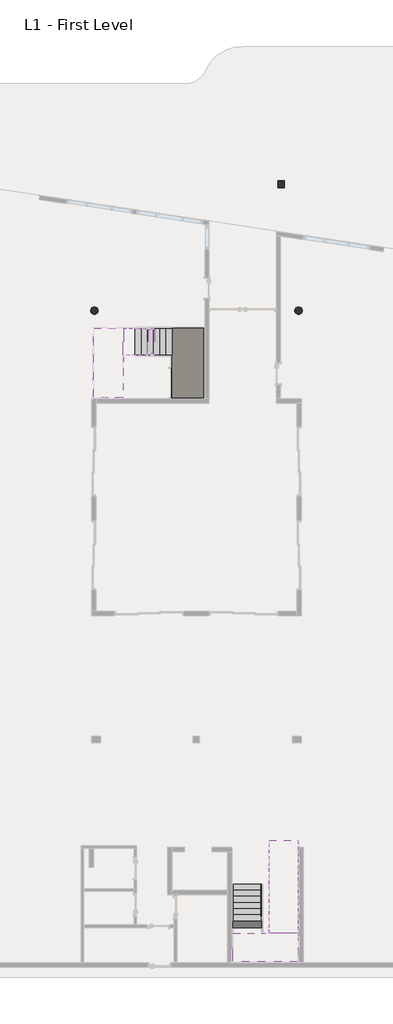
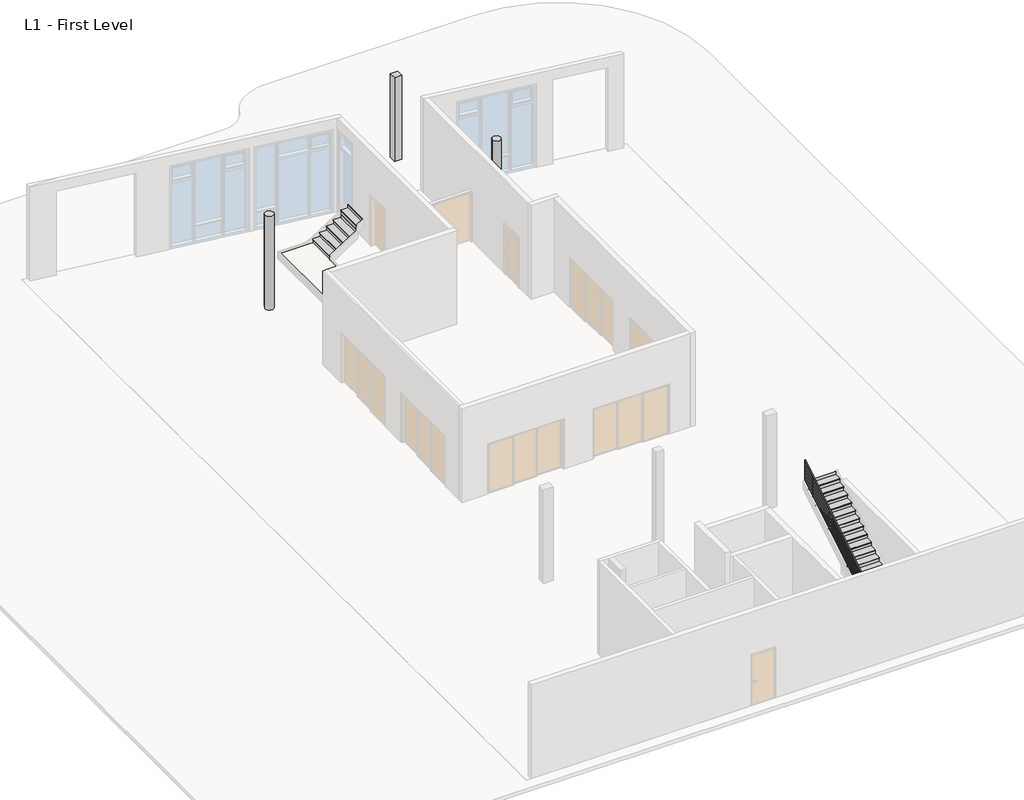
# One storey, part 3 of 4: 6 stair flights, 3 columns, 3 slabs, 1 railing.
"""IFC4 building model written with IfcOpenShell, lengths in millimetres."""

from ifc_helpers import new_model, si_unit, point, frame, frame_2d, origin, place, context, project, spatial, polyline, circle_curve, ellipse_curve, trimmed, segment, composite_curve, outline, extrude, transform, mapped, element, save
from ifc_brep_helpers import plane_surface, cylinder_surface, advanced_brep
from components import non_monolithic_landing_56880b86, non_monolithic_landing_68eda60b, non_monolithic_landing_76c3c681, stair_flight_7fb2988c, stair_flight_2c01031d, stair_flight_8867e0be, stair_flight_4e9d6097, stair_flight_b6dccf16, stair_flight_ce2f7eb1

model = new_model("IFC4")

# Units and contexts
model_context = context("Model", 3, world=origin())
ifc_project = project(units=[si_unit("LENGTHUNIT", "METRE", prefix="MILLI")], contexts=[model_context])

# Site, building, storey
site = spatial("IfcSite", under=ifc_project)
building = spatial("IfcBuilding", under=site)
storey = spatial("IfcBuildingStorey", under=building, Name="L1 - First Level", Elevation=152.4)

# Columns
placement = place(None, origin())
element("IfcColumn", 1, ObjectType="Concrete-Rectangular-Column : 12 x 12", at=placement, inside=storey, context=model_context, shape_type="SweptSolid", body=[
    extrude(outline(polyline([(18491.2, 36220.3999999), (18491.2, 35915.5999999), (18186.4, 35915.5999999), (18186.4, 36220.3999999), (18491.2, 36220.3999999)])), frame((0.0, 0.0, 152.4), z_axis=(0.0, 0.0, 1.0), x_axis=(1.0, 0.0, 0.0)), (0.0, 0.0, 1.0), 3632.2),
])
element("IfcColumn", 2, ObjectType="Concrete-Round-Column : 14\"", at=placement, inside=storey, context=model_context, shape_type="SweptSolid", body=[
    extrude(outline(composite_curve([segment(trimmed(circle_curve(frame_2d((9829.8000173, 30324.5922166)), 177.8), [point((9652.0000173, 30324.5922166))], [point((10007.6000173, 30324.5922166))], False, "CARTESIAN"), True, "CONTINUOUS"), segment(trimmed(circle_curve(frame_2d((9829.8000173, 30324.5922166)), 177.8), [point((10007.6000173, 30324.5922166))], [point((9652.0000173, 30324.5922166))], False, "CARTESIAN"), True, "CONTINUOUS")], self_intersect=False)), frame((0.0, 0.0, 152.4), z_axis=(0.0, 0.0, 1.0), x_axis=(1.0, 0.0, 0.0)), (0.0, 0.0, 1.0), 4064.0),
])
element("IfcColumn", 3, ObjectType="Concrete-Round-Column : 14\"", at=placement, inside=storey, context=model_context, shape_type="SweptSolid", body=[
    extrude(outline(composite_curve([segment(trimmed(circle_curve(frame_2d((19127.0149773, 30324.5922166)), 177.8), [point((18949.2149773, 30324.5922166))], [point((19304.8149773, 30324.5922166))], False, "CARTESIAN"), True, "CONTINUOUS"), segment(trimmed(circle_curve(frame_2d((19127.0149773, 30324.5922166)), 177.8), [point((19304.8149773, 30324.5922166))], [point((18949.2149773, 30324.5922166))], False, "CARTESIAN"), True, "CONTINUOUS")], self_intersect=False)), frame((0.0, 0.0, 152.4), z_axis=(0.0, 0.0, 1.0), x_axis=(1.0, 0.0, 0.0)), (0.0, 0.0, 1.0), 4064.0),
])

# Railing
element("IfcRailing", 4, ObjectType="Handrail - Pipe", at=placement, inside=storey, context=model_context, shape_type="SolidModel", body=[
    advanced_brep(
    [(17405.36205, 4241.8, 1217.1239012), (17443.46205, 4241.8, 1217.1239012), (17405.36205, 1980.3792625, 2615.0930844), (17443.46205, 2012.7869156, 2595.0592625)],
    [
        (0, 1, ellipse_curve(frame((17424.41205, 4241.8, 1217.1239012), z_axis=(0.0, 1.0, 0.0), x_axis=(0.0, 0.0, -1.0)), 22.3960988, 19.05)),
        (1, 0, ellipse_curve(frame((17424.41205, 4241.8, 1217.1239012), z_axis=(0.0, 1.0, 0.0), x_axis=(0.0, 0.0, -1.0)), 22.3960988, 19.05)),
        (2, 3, ellipse_curve(frame((17424.41205, 1996.5830891, 2605.0761735), z_axis=(0.7071067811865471, -0.6014611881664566, 0.37181237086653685), x_axis=(0.7071067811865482, 0.6014611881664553, -0.3718123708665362)), 26.9407684, 19.05)),
        (3, 2, ellipse_curve(frame((17424.41205, 1996.5830891, 2605.0761735), z_axis=(0.7071067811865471, -0.6014611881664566, 0.37181237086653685), x_axis=(0.7071067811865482, 0.6014611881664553, -0.3718123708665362)), 26.9407684, 19.05)),
        (0, 2),
        (3, 1),
    ],
    [
        plane_surface(frame((17424.41205, 4241.8, 1239.52), z_axis=(0.0, 1.0, 0.0), x_axis=(0.0, 0.0, -1.0))),
        plane_surface(frame((17424.41205, 2006.6, 2621.28), z_axis=(0.7071067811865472, -0.6014611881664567, 0.3718123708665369), x_axis=(0.7071067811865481, 0.6014611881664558, -0.3718123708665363))),
        cylinder_surface(frame((17424.41205, 4231.7830891, 1223.3161735), z_axis=(0.0, 0.8505945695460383, -0.525822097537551), x_axis=(1.0, 0.0, 0.0)), 19.05),
    ],
    [
        (0, [[1, 2]]),
        (1, [[3, 4]]),
        (2, [[-1, 5, -4, 6]]),
        (2, [[-2, -6, -3, -5]]),
    ],
),
    advanced_brep(
    [(17418.2251344, 1962.15, 2602.23), (17450.6327875, 2000.25, 2602.23), (17830.804894, 1962.15, 2602.23), (17830.804894, 2000.25, 2602.23)],
    [
        (0, 1, ellipse_curve(frame((17434.428961, 1981.2, 2602.23), z_axis=(-0.7071067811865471, 0.6014611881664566, -0.37181237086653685), x_axis=(-0.7071067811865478, -0.6014611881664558, 0.37181237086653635)), 26.9407684, 19.05)),
        (1, 0, ellipse_curve(frame((17434.428961, 1981.2, 2602.23), z_axis=(-0.7071067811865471, 0.6014611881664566, -0.37181237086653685), x_axis=(-0.7071067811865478, -0.6014611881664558, 0.37181237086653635)), 26.9407684, 19.05)),
        (2, 3, ellipse_curve(frame((17830.804894, 1981.2, 2602.23), z_axis=(0.7071067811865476, 0.0, 0.7071067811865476), x_axis=(-0.7071067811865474, 0.0, 0.7071067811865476)), 26.9407684, 19.05)),
        (3, 2, ellipse_curve(frame((17830.804894, 1981.2, 2602.23), z_axis=(0.7071067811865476, 0.0, 0.7071067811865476), x_axis=(-0.7071067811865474, 0.0, 0.7071067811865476)), 26.9407684, 19.05)),
        (0, 2),
        (3, 1),
    ],
    [
        plane_surface(frame((17424.41205, 1981.2, 2621.28), z_axis=(-0.7071067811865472, 0.6014611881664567, -0.3718123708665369), x_axis=(0.7071067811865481, 0.6014611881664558, -0.3718123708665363))),
        plane_surface(frame((17811.754894, 1981.2, 2621.28), z_axis=(0.7071067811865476, 0.0, 0.7071067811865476), x_axis=(0.7071067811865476, 0.0, -0.7071067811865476))),
        cylinder_surface(frame((17424.41205, 1981.2, 2602.23), z_axis=(-1.0, 0.0, 0.0), x_axis=(0.0, 1.0, 0.0)), 19.05),
    ],
    [
        (0, [[1, 2]]),
        (1, [[3, 4]]),
        (2, [[-1, 5, -4, 6]]),
        (2, [[-2, -6, -3, -5]]),
    ],
),
    advanced_brep(
    [(17830.804894, 1962.15, 2602.23), (17830.804894, 2000.25, 2602.23), (17830.804894, 1962.15, 2766.5218182), (17830.804894, 2000.25, 2745.2823479)],
    [
        (0, 1, ellipse_curve(frame((17830.804894, 1981.2, 2602.23), z_axis=(-0.7071067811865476, 0.0, -0.7071067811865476), x_axis=(0.7071067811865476, 0.0, -0.7071067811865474)), 26.9407684, 19.05)),
        (1, 0, ellipse_curve(frame((17830.804894, 1981.2, 2602.23), z_axis=(-0.7071067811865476, 0.0, -0.7071067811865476), x_axis=(0.7071067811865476, 0.0, -0.7071067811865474)), 26.9407684, 19.05)),
        (2, 3, ellipse_curve(frame((17830.804894, 1981.2, 2755.902083), z_axis=(0.0, 0.486917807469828, 0.8734477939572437), x_axis=(0.0, 0.8734477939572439, -0.4869178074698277)), 21.8101186, 19.05)),
        (3, 2, ellipse_curve(frame((17830.804894, 1981.2, 2755.902083), z_axis=(0.0, 0.486917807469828, 0.8734477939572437), x_axis=(0.0, 0.8734477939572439, -0.4869178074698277)), 21.8101186, 19.05)),
        (0, 2),
        (3, 1),
    ],
    [
        plane_surface(frame((17830.804894, 1981.2, 2602.23), z_axis=(-0.7071067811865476, 0.0, -0.7071067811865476), x_axis=(0.7071067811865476, 0.0, -0.7071067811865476))),
        plane_surface(frame((17830.804894, 1981.2, 2755.902083), z_axis=(0.0, 0.486917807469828, 0.8734477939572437), x_axis=(1.0, 0.0, 0.0))),
        cylinder_surface(frame((17830.804894, 1981.2, 2602.23), z_axis=(0.0, 0.0, -1.0), x_axis=(0.0, 1.0, 0.0)), 19.05),
    ],
    [
        (0, [[1, 2]]),
        (1, [[3, 4]]),
        (2, [[-1, 5, -4, 6]]),
        (2, [[-2, -6, -3, -5]]),
    ],
),
    advanced_brep(
    [(17849.854894, 1981.2, 2755.902083), (17811.754894, 1981.2, 2755.902083), (17849.854894, 6197.6, 5362.4039012), (17811.754894, 6197.6, 5362.4039012)],
    [
        (0, 1, ellipse_curve(frame((17830.804894, 1981.2, 2755.902083), z_axis=(0.0, -0.486917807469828, -0.8734477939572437), x_axis=(0.0, -0.8734477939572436, 0.4869178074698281)), 21.8101186, 19.05)),
        (1, 0, ellipse_curve(frame((17830.804894, 1981.2, 2755.902083), z_axis=(0.0, -0.486917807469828, -0.8734477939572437), x_axis=(0.0, -0.8734477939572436, 0.4869178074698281)), 21.8101186, 19.05)),
        (2, 3, ellipse_curve(frame((17830.804894, 6197.6, 5362.4039012), z_axis=(0.0, 1.0, 0.0), x_axis=(0.0, 0.0, -1.0)), 22.3960988, 19.05)),
        (3, 2, ellipse_curve(frame((17830.804894, 6197.6, 5362.4039012), z_axis=(0.0, 1.0, 0.0), x_axis=(0.0, 0.0, -1.0)), 22.3960988, 19.05)),
        (0, 2),
        (3, 1),
    ],
    [
        plane_surface(frame((17830.804894, 1962.15, 2766.5218182), z_axis=(0.0, -0.486917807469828, -0.8734477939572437), x_axis=(1.0, 0.0, 0.0))),
        plane_surface(frame((17830.804894, 6197.6, 5384.8), z_axis=(0.0, 1.0, 0.0), x_axis=(0.0, 0.0, 1.0))),
        cylinder_surface(frame((17830.804894, 1972.166911, 2750.3179916), z_axis=(0.0, -0.8505945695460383, -0.525822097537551), x_axis=(-1.0, 0.0, 0.0)), 19.05),
    ],
    [
        (0, [[1, 2]]),
        (1, [[3, 4]]),
        (2, [[-1, 5, -4, 6]]),
        (2, [[-2, -6, -3, -5]]),
    ],
),
    advanced_brep(
    [(17411.71205, 4241.8, 1072.1892675), (17437.11205, 4241.8, 1072.1892675), (17411.71205, 2002.9914621, 2456.18), (17437.11205, 2002.9914621, 2456.18), (17411.71205, 1993.9, 2456.18), (17437.11205, 1993.9, 2456.18)],
    [
        (0, 1, ellipse_curve(frame((17424.41205, 4241.8, 1072.1892675), z_axis=(0.0, 1.0, 0.0), x_axis=(0.0, 0.0, -1.0)), 14.9307325, 12.7)),
        (1, 0, ellipse_curve(frame((17424.41205, 4241.8, 1072.1892675), z_axis=(0.0, 1.0, 0.0), x_axis=(0.0, 0.0, -1.0)), 14.9307325, 12.7)),
        (0, 2),
        (2, 3, ellipse_curve(frame((17424.41205, 2002.9914621, 2456.18), z_axis=(0.0, 0.9619237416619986, -0.27331797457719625), x_axis=(0.0, -0.2733179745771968, -0.9619237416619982)), 13.2027098, 12.7)),
        (3, 1),
        (3, 2, ellipse_curve(frame((17424.41205, 2002.9914621, 2456.18), z_axis=(0.0, 0.9619237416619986, -0.27331797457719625), x_axis=(0.0, -0.2733179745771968, -0.9619237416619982)), 13.2027098, 12.7)),
        (4, 5, circle_curve(frame((17424.41205, 1993.9, 2456.18), z_axis=(0.0, -1.0, 0.0), x_axis=(1.0, 0.0, 0.0)), 12.7)),
        (5, 4, circle_curve(frame((17424.41205, 1993.9, 2456.18), z_axis=(0.0, -1.0, 0.0), x_axis=(1.0, 0.0, 0.0)), 12.7)),
        (2, 4),
        (5, 3),
    ],
    [
        plane_surface(frame((17424.41205, 4241.8, 1087.12), z_axis=(0.0, 1.0, 0.0), x_axis=(0.0, 0.0, -1.0))),
        cylinder_surface(frame((17424.41205, 4235.1220594, 1076.317449), z_axis=(0.0, 0.8505945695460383, -0.525822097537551), x_axis=(1.0, 0.0, 0.0)), 12.7),
        plane_surface(frame((17424.41205, 1993.9, 2468.88), z_axis=(0.0, -1.0, 0.0), x_axis=(0.0, 0.0, -1.0))),
        cylinder_surface(frame((17424.41205, 2006.6, 2456.18), z_axis=(0.0, 1.0, 0.0), x_axis=(1.0, 0.0, 0.0)), 12.7),
    ],
    [
        (0, [[1, 2]]),
        (1, [[-1, 3, 4, 5]]),
        (1, [[-2, -5, 6, -3]]),
        (2, [[7, 8]]),
        (3, [[-4, 9, -8, 10]]),
        (3, [[-6, -10, -7, -9]]),
    ],
),
    advanced_brep(
    [(17411.71205, 1968.5, 2456.18), (17411.71205, 1993.9, 2456.18), (17818.104894, 1968.5, 2456.18), (17818.104894, 1993.9, 2456.18)],
    [
        (0, 1, circle_curve(frame((17411.71205, 1981.2, 2456.18), z_axis=(-1.0, 0.0, 0.0), x_axis=(0.0, 1.0, 0.0)), 12.7)),
        (1, 0, circle_curve(frame((17411.71205, 1981.2, 2456.18), z_axis=(-1.0, 0.0, 0.0), x_axis=(0.0, 1.0, 0.0)), 12.7)),
        (2, 3, circle_curve(frame((17818.104894, 1981.2, 2456.18), z_axis=(1.0, 0.0, 0.0), x_axis=(0.0, 1.0, 0.0)), 12.7)),
        (3, 2, circle_curve(frame((17818.104894, 1981.2, 2456.18), z_axis=(1.0, 0.0, 0.0), x_axis=(0.0, 1.0, 0.0)), 12.7)),
        (0, 2),
        (3, 1),
    ],
    [
        plane_surface(frame((17411.71205, 1981.2, 2468.88), z_axis=(-1.0, 0.0, 0.0), x_axis=(0.0, 1.0, 0.0))),
        plane_surface(frame((17818.104894, 1981.2, 2468.88), z_axis=(1.0, 0.0, 0.0), x_axis=(0.0, 1.0, 0.0))),
        cylinder_surface(frame((17411.71205, 1981.2, 2456.18), z_axis=(-1.0, 0.0, 0.0), x_axis=(0.0, 1.0, 0.0)), 12.7),
    ],
    [
        (0, [[1, 2]]),
        (1, [[3, 4]]),
        (2, [[-1, 5, -4, 6]]),
        (2, [[-2, -6, -3, -5]]),
    ],
),
    advanced_brep(
    [(17843.504894, 1968.5, 2603.1165402), (17818.104894, 1968.5, 2603.1165402), (17843.504894, 6197.6, 5217.4692675), (17818.104894, 6197.6, 5217.4692675)],
    [
        (0, 1, ellipse_curve(frame((17830.804894, 1968.5, 2603.1165402), z_axis=(0.0, -1.0, 0.0), x_axis=(0.0, 0.0, -1.0)), 14.9307325, 12.7)),
        (1, 0, ellipse_curve(frame((17830.804894, 1968.5, 2603.1165402), z_axis=(0.0, -1.0, 0.0), x_axis=(0.0, 0.0, -1.0)), 14.9307325, 12.7)),
        (2, 3, ellipse_curve(frame((17830.804894, 6197.6, 5217.4692675), z_axis=(0.0, 1.0, 0.0), x_axis=(0.0, 0.0, -1.0)), 14.9307325, 12.7)),
        (3, 2, ellipse_curve(frame((17830.804894, 6197.6, 5217.4692675), z_axis=(0.0, 1.0, 0.0), x_axis=(0.0, 0.0, -1.0)), 14.9307325, 12.7)),
        (0, 2),
        (3, 1),
    ],
    [
        plane_surface(frame((17830.804894, 1968.5, 2618.0472727), z_axis=(0.0, -1.0, 0.0), x_axis=(0.0, 0.0, 1.0))),
        plane_surface(frame((17830.804894, 6197.6, 5232.4), z_axis=(0.0, 1.0, 0.0), x_axis=(0.0, 0.0, 1.0))),
        cylinder_surface(frame((17830.804894, 1975.1779407, 2607.2447217), z_axis=(0.0, -0.8505945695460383, -0.525822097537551), x_axis=(-1.0, 0.0, 0.0)), 12.7),
    ],
    [
        (0, [[1, 2]]),
        (1, [[3, 4]]),
        (2, [[-1, 5, -4, 6]]),
        (2, [[-2, -6, -3, -5]]),
    ],
),
    advanced_brep(
    [(17411.71205, 4241.8, 919.7892675), (17437.11205, 4241.8, 919.7892675), (17411.71205, 2002.9914621, 2303.78), (17437.11205, 2002.9914621, 2303.78), (17411.71205, 1993.9, 2303.78), (17437.11205, 1993.9, 2303.78)],
    [
        (0, 1, ellipse_curve(frame((17424.41205, 4241.8, 919.7892675), z_axis=(0.0, 1.0, 0.0), x_axis=(0.0, 0.0, -1.0)), 14.9307325, 12.7)),
        (1, 0, ellipse_curve(frame((17424.41205, 4241.8, 919.7892675), z_axis=(0.0, 1.0, 0.0), x_axis=(0.0, 0.0, -1.0)), 14.9307325, 12.7)),
        (0, 2),
        (2, 3, ellipse_curve(frame((17424.41205, 2002.9914621, 2303.78), z_axis=(0.0, 0.9619237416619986, -0.27331797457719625), x_axis=(0.0, -0.2733179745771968, -0.9619237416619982)), 13.2027098, 12.7)),
        (3, 1),
        (3, 2, ellipse_curve(frame((17424.41205, 2002.9914621, 2303.78), z_axis=(0.0, 0.9619237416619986, -0.27331797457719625), x_axis=(0.0, -0.2733179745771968, -0.9619237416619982)), 13.2027098, 12.7)),
        (4, 5, circle_curve(frame((17424.41205, 1993.9, 2303.78), z_axis=(0.0, -1.0, 0.0), x_axis=(1.0, 0.0, 0.0)), 12.7)),
        (5, 4, circle_curve(frame((17424.41205, 1993.9, 2303.78), z_axis=(0.0, -1.0, 0.0), x_axis=(1.0, 0.0, 0.0)), 12.7)),
        (2, 4),
        (5, 3),
    ],
    [
        plane_surface(frame((17424.41205, 4241.8, 934.72), z_axis=(0.0, 1.0, 0.0), x_axis=(0.0, 0.0, -1.0))),
        cylinder_surface(frame((17424.41205, 4235.1220594, 923.917449), z_axis=(0.0, 0.8505945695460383, -0.525822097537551), x_axis=(1.0, 0.0, 0.0)), 12.7),
        plane_surface(frame((17424.41205, 1993.9, 2316.48), z_axis=(0.0, -1.0, 0.0), x_axis=(0.0, 0.0, -1.0))),
        cylinder_surface(frame((17424.41205, 2006.6, 2303.78), z_axis=(0.0, 1.0, 0.0), x_axis=(1.0, 0.0, 0.0)), 12.7),
    ],
    [
        (0, [[1, 2]]),
        (1, [[-1, 3, 4, 5]]),
        (1, [[-2, -5, 6, -3]]),
        (2, [[7, 8]]),
        (3, [[-4, 9, -8, 10]]),
        (3, [[-6, -10, -7, -9]]),
    ],
),
    advanced_brep(
    [(17411.71205, 1968.5, 2303.78), (17411.71205, 1993.9, 2303.78), (17818.104894, 1968.5, 2303.78), (17818.104894, 1993.9, 2303.78)],
    [
        (0, 1, circle_curve(frame((17411.71205, 1981.2, 2303.78), z_axis=(-1.0, 0.0, 0.0), x_axis=(0.0, 1.0, 0.0)), 12.7)),
        (1, 0, circle_curve(frame((17411.71205, 1981.2, 2303.78), z_axis=(-1.0, 0.0, 0.0), x_axis=(0.0, 1.0, 0.0)), 12.7)),
        (2, 3, circle_curve(frame((17818.104894, 1981.2, 2303.78), z_axis=(1.0, 0.0, 0.0), x_axis=(0.0, 1.0, 0.0)), 12.7)),
        (3, 2, circle_curve(frame((17818.104894, 1981.2, 2303.78), z_axis=(1.0, 0.0, 0.0), x_axis=(0.0, 1.0, 0.0)), 12.7)),
        (0, 2),
        (3, 1),
    ],
    [
        plane_surface(frame((17411.71205, 1981.2, 2316.48), z_axis=(-1.0, 0.0, 0.0), x_axis=(0.0, 1.0, 0.0))),
        plane_surface(frame((17818.104894, 1981.2, 2316.48), z_axis=(1.0, 0.0, 0.0), x_axis=(0.0, 1.0, 0.0))),
        cylinder_surface(frame((17411.71205, 1981.2, 2303.78), z_axis=(-1.0, 0.0, 0.0), x_axis=(0.0, 1.0, 0.0)), 12.7),
    ],
    [
        (0, [[1, 2]]),
        (1, [[3, 4]]),
        (2, [[-1, 5, -4, 6]]),
        (2, [[-2, -6, -3, -5]]),
    ],
),
    advanced_brep(
    [(17843.504894, 1968.5, 2450.7165402), (17818.104894, 1968.5, 2450.7165402), (17843.504894, 6197.6, 5065.0692675), (17818.104894, 6197.6, 5065.0692675)],
    [
        (0, 1, ellipse_curve(frame((17830.804894, 1968.5, 2450.7165402), z_axis=(0.0, -1.0, 0.0), x_axis=(0.0, 0.0, -1.0)), 14.9307325, 12.7)),
        (1, 0, ellipse_curve(frame((17830.804894, 1968.5, 2450.7165402), z_axis=(0.0, -1.0, 0.0), x_axis=(0.0, 0.0, -1.0)), 14.9307325, 12.7)),
        (2, 3, ellipse_curve(frame((17830.804894, 6197.6, 5065.0692675), z_axis=(0.0, 1.0, 0.0), x_axis=(0.0, 0.0, -1.0)), 14.9307325, 12.7)),
        (3, 2, ellipse_curve(frame((17830.804894, 6197.6, 5065.0692675), z_axis=(0.0, 1.0, 0.0), x_axis=(0.0, 0.0, -1.0)), 14.9307325, 12.7)),
        (0, 2),
        (3, 1),
    ],
    [
        plane_surface(frame((17830.804894, 1968.5, 2465.6472727), z_axis=(0.0, -1.0, 0.0), x_axis=(0.0, 0.0, 1.0))),
        plane_surface(frame((17830.804894, 6197.6, 5080.0), z_axis=(0.0, 1.0, 0.0), x_axis=(0.0, 0.0, 1.0))),
        cylinder_surface(frame((17830.804894, 1975.1779407, 2454.8447217), z_axis=(0.0, -0.8505945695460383, -0.525822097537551), x_axis=(-1.0, 0.0, 0.0)), 12.7),
    ],
    [
        (0, [[1, 2]]),
        (1, [[3, 4]]),
        (2, [[-1, 5, -4, 6]]),
        (2, [[-2, -6, -3, -5]]),
    ],
),
    advanced_brep(
    [(17411.71205, 4241.8, 767.3892675), (17437.11205, 4241.8, 767.3892675), (17411.71205, 2002.9914621, 2151.38), (17437.11205, 2002.9914621, 2151.38), (17411.71205, 1993.9, 2151.38), (17437.11205, 1993.9, 2151.38)],
    [
        (0, 1, ellipse_curve(frame((17424.41205, 4241.8, 767.3892675), z_axis=(0.0, 1.0, 0.0), x_axis=(0.0, 0.0, -1.0)), 14.9307325, 12.7)),
        (1, 0, ellipse_curve(frame((17424.41205, 4241.8, 767.3892675), z_axis=(0.0, 1.0, 0.0), x_axis=(0.0, 0.0, -1.0)), 14.9307325, 12.7)),
        (0, 2),
        (2, 3, ellipse_curve(frame((17424.41205, 2002.9914621, 2151.38), z_axis=(0.0, 0.9619237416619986, -0.27331797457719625), x_axis=(0.0, -0.2733179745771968, -0.9619237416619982)), 13.2027098, 12.7)),
        (3, 1),
        (3, 2, ellipse_curve(frame((17424.41205, 2002.9914621, 2151.38), z_axis=(0.0, 0.9619237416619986, -0.27331797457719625), x_axis=(0.0, -0.2733179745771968, -0.9619237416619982)), 13.2027098, 12.7)),
        (4, 5, circle_curve(frame((17424.41205, 1993.9, 2151.38), z_axis=(0.0, -1.0, 0.0), x_axis=(1.0, 0.0, 0.0)), 12.7)),
        (5, 4, circle_curve(frame((17424.41205, 1993.9, 2151.38), z_axis=(0.0, -1.0, 0.0), x_axis=(1.0, 0.0, 0.0)), 12.7)),
        (2, 4),
        (5, 3),
    ],
    [
        plane_surface(frame((17424.41205, 4241.8, 782.32), z_axis=(0.0, 1.0, 0.0), x_axis=(0.0, 0.0, -1.0))),
        cylinder_surface(frame((17424.41205, 4235.1220594, 771.517449), z_axis=(0.0, 0.8505945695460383, -0.525822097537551), x_axis=(1.0, 0.0, 0.0)), 12.7),
        plane_surface(frame((17424.41205, 1993.9, 2164.08), z_axis=(0.0, -1.0, 0.0), x_axis=(0.0, 0.0, -1.0))),
        cylinder_surface(frame((17424.41205, 2006.6, 2151.38), z_axis=(0.0, 1.0, 0.0), x_axis=(1.0, 0.0, 0.0)), 12.7),
    ],
    [
        (0, [[1, 2]]),
        (1, [[-1, 3, 4, 5]]),
        (1, [[-2, -5, 6, -3]]),
        (2, [[7, 8]]),
        (3, [[-4, 9, -8, 10]]),
        (3, [[-6, -10, -7, -9]]),
    ],
),
    advanced_brep(
    [(17411.71205, 1968.5, 2151.38), (17411.71205, 1993.9, 2151.38), (17818.104894, 1968.5, 2151.38), (17818.104894, 1993.9, 2151.38)],
    [
        (0, 1, circle_curve(frame((17411.71205, 1981.2, 2151.38), z_axis=(-1.0, 0.0, 0.0), x_axis=(0.0, 1.0, 0.0)), 12.7)),
        (1, 0, circle_curve(frame((17411.71205, 1981.2, 2151.38), z_axis=(-1.0, 0.0, 0.0), x_axis=(0.0, 1.0, 0.0)), 12.7)),
        (2, 3, circle_curve(frame((17818.104894, 1981.2, 2151.38), z_axis=(1.0, 0.0, 0.0), x_axis=(0.0, 1.0, 0.0)), 12.7)),
        (3, 2, circle_curve(frame((17818.104894, 1981.2, 2151.38), z_axis=(1.0, 0.0, 0.0), x_axis=(0.0, 1.0, 0.0)), 12.7)),
        (0, 2),
        (3, 1),
    ],
    [
        plane_surface(frame((17411.71205, 1981.2, 2164.08), z_axis=(-1.0, 0.0, 0.0), x_axis=(0.0, 1.0, 0.0))),
        plane_surface(frame((17818.104894, 1981.2, 2164.08), z_axis=(1.0, 0.0, 0.0), x_axis=(0.0, 1.0, 0.0))),
        cylinder_surface(frame((17411.71205, 1981.2, 2151.38), z_axis=(-1.0, 0.0, 0.0), x_axis=(0.0, 1.0, 0.0)), 12.7),
    ],
    [
        (0, [[1, 2]]),
        (1, [[3, 4]]),
        (2, [[-1, 5, -4, 6]]),
        (2, [[-2, -6, -3, -5]]),
    ],
),
    advanced_brep(
    [(17843.504894, 1968.5, 2298.3165402), (17818.104894, 1968.5, 2298.3165402), (17843.504894, 6197.6, 4912.6692675), (17818.104894, 6197.6, 4912.6692675)],
    [
        (0, 1, ellipse_curve(frame((17830.804894, 1968.5, 2298.3165402), z_axis=(0.0, -1.0, 0.0), x_axis=(0.0, 0.0, -1.0)), 14.9307325, 12.7)),
        (1, 0, ellipse_curve(frame((17830.804894, 1968.5, 2298.3165402), z_axis=(0.0, -1.0, 0.0), x_axis=(0.0, 0.0, -1.0)), 14.9307325, 12.7)),
        (2, 3, ellipse_curve(frame((17830.804894, 6197.6, 4912.6692675), z_axis=(0.0, 1.0, 0.0), x_axis=(0.0, 0.0, -1.0)), 14.9307325, 12.7)),
        (3, 2, ellipse_curve(frame((17830.804894, 6197.6, 4912.6692675), z_axis=(0.0, 1.0, 0.0), x_axis=(0.0, 0.0, -1.0)), 14.9307325, 12.7)),
        (0, 2),
        (3, 1),
    ],
    [
        plane_surface(frame((17830.804894, 1968.5, 2313.2472727), z_axis=(0.0, -1.0, 0.0), x_axis=(0.0, 0.0, 1.0))),
        plane_surface(frame((17830.804894, 6197.6, 4927.6), z_axis=(0.0, 1.0, 0.0), x_axis=(0.0, 0.0, 1.0))),
        cylinder_surface(frame((17830.804894, 1975.1779407, 2302.4447217), z_axis=(0.0, -0.8505945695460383, -0.525822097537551), x_axis=(-1.0, 0.0, 0.0)), 12.7),
    ],
    [
        (0, [[1, 2]]),
        (1, [[3, 4]]),
        (2, [[-1, 5, -4, 6]]),
        (2, [[-2, -6, -3, -5]]),
    ],
),
    advanced_brep(
    [(17411.71205, 4241.8, 614.9892675), (17437.11205, 4241.8, 614.9892675), (17411.71205, 2002.9914621, 1998.98), (17437.11205, 2002.9914621, 1998.98), (17411.71205, 1993.9, 1998.98), (17437.11205, 1993.9, 1998.98)],
    [
        (0, 1, ellipse_curve(frame((17424.41205, 4241.8, 614.9892675), z_axis=(0.0, 1.0, 0.0), x_axis=(0.0, 0.0, -1.0)), 14.9307325, 12.7)),
        (1, 0, ellipse_curve(frame((17424.41205, 4241.8, 614.9892675), z_axis=(0.0, 1.0, 0.0), x_axis=(0.0, 0.0, -1.0)), 14.9307325, 12.7)),
        (0, 2),
        (2, 3, ellipse_curve(frame((17424.41205, 2002.9914621, 1998.98), z_axis=(0.0, 0.9619237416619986, -0.27331797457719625), x_axis=(0.0, -0.2733179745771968, -0.9619237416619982)), 13.2027098, 12.7)),
        (3, 1),
        (3, 2, ellipse_curve(frame((17424.41205, 2002.9914621, 1998.98), z_axis=(0.0, 0.9619237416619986, -0.27331797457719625), x_axis=(0.0, -0.2733179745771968, -0.9619237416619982)), 13.2027098, 12.7)),
        (4, 5, circle_curve(frame((17424.41205, 1993.9, 1998.98), z_axis=(0.0, -1.0, 0.0), x_axis=(1.0, 0.0, 0.0)), 12.7)),
        (5, 4, circle_curve(frame((17424.41205, 1993.9, 1998.98), z_axis=(0.0, -1.0, 0.0), x_axis=(1.0, 0.0, 0.0)), 12.7)),
        (2, 4),
        (5, 3),
    ],
    [
        plane_surface(frame((17424.41205, 4241.8, 629.92), z_axis=(0.0, 1.0, 0.0), x_axis=(0.0, 0.0, -1.0))),
        cylinder_surface(frame((17424.41205, 4235.1220594, 619.117449), z_axis=(0.0, 0.8505945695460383, -0.525822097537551), x_axis=(1.0, 0.0, 0.0)), 12.7),
        plane_surface(frame((17424.41205, 1993.9, 2011.68), z_axis=(0.0, -1.0, 0.0), x_axis=(0.0, 0.0, -1.0))),
        cylinder_surface(frame((17424.41205, 2006.6, 1998.98), z_axis=(0.0, 1.0, 0.0), x_axis=(1.0, 0.0, 0.0)), 12.7),
    ],
    [
        (0, [[1, 2]]),
        (1, [[-1, 3, 4, 5]]),
        (1, [[-2, -5, 6, -3]]),
        (2, [[7, 8]]),
        (3, [[-4, 9, -8, 10]]),
        (3, [[-6, -10, -7, -9]]),
    ],
),
    advanced_brep(
    [(17411.71205, 1968.5, 1998.98), (17411.71205, 1993.9, 1998.98), (17818.104894, 1968.5, 1998.98), (17818.104894, 1993.9, 1998.98)],
    [
        (0, 1, circle_curve(frame((17411.71205, 1981.2, 1998.98), z_axis=(-1.0, 0.0, 0.0), x_axis=(0.0, 1.0, 0.0)), 12.7)),
        (1, 0, circle_curve(frame((17411.71205, 1981.2, 1998.98), z_axis=(-1.0, 0.0, 0.0), x_axis=(0.0, 1.0, 0.0)), 12.7)),
        (2, 3, circle_curve(frame((17818.104894, 1981.2, 1998.98), z_axis=(1.0, 0.0, 0.0), x_axis=(0.0, 1.0, 0.0)), 12.7)),
        (3, 2, circle_curve(frame((17818.104894, 1981.2, 1998.98), z_axis=(1.0, 0.0, 0.0), x_axis=(0.0, 1.0, 0.0)), 12.7)),
        (0, 2),
        (3, 1),
    ],
    [
        plane_surface(frame((17411.71205, 1981.2, 2011.68), z_axis=(-1.0, 0.0, 0.0), x_axis=(0.0, 1.0, 0.0))),
        plane_surface(frame((17818.104894, 1981.2, 2011.68), z_axis=(1.0, 0.0, 0.0), x_axis=(0.0, 1.0, 0.0))),
        cylinder_surface(frame((17411.71205, 1981.2, 1998.98), z_axis=(-1.0, 0.0, 0.0), x_axis=(0.0, 1.0, 0.0)), 12.7),
    ],
    [
        (0, [[1, 2]]),
        (1, [[3, 4]]),
        (2, [[-1, 5, -4, 6]]),
        (2, [[-2, -6, -3, -5]]),
    ],
),
    advanced_brep(
    [(17843.504894, 1968.5, 2145.9165402), (17818.104894, 1968.5, 2145.9165402), (17843.504894, 6197.6, 4760.2692675), (17818.104894, 6197.6, 4760.2692675)],
    [
        (0, 1, ellipse_curve(frame((17830.804894, 1968.5, 2145.9165402), z_axis=(0.0, -1.0, 0.0), x_axis=(0.0, 0.0, -1.0)), 14.9307325, 12.7)),
        (1, 0, ellipse_curve(frame((17830.804894, 1968.5, 2145.9165402), z_axis=(0.0, -1.0, 0.0), x_axis=(0.0, 0.0, -1.0)), 14.9307325, 12.7)),
        (2, 3, ellipse_curve(frame((17830.804894, 6197.6, 4760.2692675), z_axis=(0.0, 1.0, 0.0), x_axis=(0.0, 0.0, -1.0)), 14.9307325, 12.7)),
        (3, 2, ellipse_curve(frame((17830.804894, 6197.6, 4760.2692675), z_axis=(0.0, 1.0, 0.0), x_axis=(0.0, 0.0, -1.0)), 14.9307325, 12.7)),
        (0, 2),
        (3, 1),
    ],
    [
        plane_surface(frame((17830.804894, 1968.5, 2160.8472727), z_axis=(0.0, -1.0, 0.0), x_axis=(0.0, 0.0, 1.0))),
        plane_surface(frame((17830.804894, 6197.6, 4775.2), z_axis=(0.0, 1.0, 0.0), x_axis=(0.0, 0.0, 1.0))),
        cylinder_surface(frame((17830.804894, 1975.1779407, 2150.0447217), z_axis=(0.0, -0.8505945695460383, -0.525822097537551), x_axis=(-1.0, 0.0, 0.0)), 12.7),
    ],
    [
        (0, [[1, 2]]),
        (1, [[3, 4]]),
        (2, [[-1, 5, -4, 6]]),
        (2, [[-2, -6, -3, -5]]),
    ],
),
    advanced_brep(
    [(17411.71205, 4241.8, 462.5892675), (17437.11205, 4241.8, 462.5892675), (17411.71205, 2002.9914621, 1846.58), (17437.11205, 2002.9914621, 1846.58), (17411.71205, 1993.9, 1846.58), (17437.11205, 1993.9, 1846.58)],
    [
        (0, 1, ellipse_curve(frame((17424.41205, 4241.8, 462.5892675), z_axis=(0.0, 1.0, 0.0), x_axis=(0.0, 0.0, -1.0)), 14.9307325, 12.7)),
        (1, 0, ellipse_curve(frame((17424.41205, 4241.8, 462.5892675), z_axis=(0.0, 1.0, 0.0), x_axis=(0.0, 0.0, -1.0)), 14.9307325, 12.7)),
        (0, 2),
        (2, 3, ellipse_curve(frame((17424.41205, 2002.9914621, 1846.58), z_axis=(0.0, 0.9619237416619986, -0.27331797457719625), x_axis=(0.0, -0.2733179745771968, -0.9619237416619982)), 13.2027098, 12.7)),
        (3, 1),
        (3, 2, ellipse_curve(frame((17424.41205, 2002.9914621, 1846.58), z_axis=(0.0, 0.9619237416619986, -0.27331797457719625), x_axis=(0.0, -0.2733179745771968, -0.9619237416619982)), 13.2027098, 12.7)),
        (4, 5, circle_curve(frame((17424.41205, 1993.9, 1846.58), z_axis=(0.0, -1.0, 0.0), x_axis=(1.0, 0.0, 0.0)), 12.7)),
        (5, 4, circle_curve(frame((17424.41205, 1993.9, 1846.58), z_axis=(0.0, -1.0, 0.0), x_axis=(1.0, 0.0, 0.0)), 12.7)),
        (2, 4),
        (5, 3),
    ],
    [
        plane_surface(frame((17424.41205, 4241.8, 477.52), z_axis=(0.0, 1.0, 0.0), x_axis=(0.0, 0.0, -1.0))),
        cylinder_surface(frame((17424.41205, 4235.1220594, 466.717449), z_axis=(0.0, 0.8505945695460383, -0.525822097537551), x_axis=(1.0, 0.0, 0.0)), 12.7),
        plane_surface(frame((17424.41205, 1993.9, 1859.28), z_axis=(0.0, -1.0, 0.0), x_axis=(0.0, 0.0, -1.0))),
        cylinder_surface(frame((17424.41205, 2006.6, 1846.58), z_axis=(0.0, 1.0, 0.0), x_axis=(1.0, 0.0, 0.0)), 12.7),
    ],
    [
        (0, [[1, 2]]),
        (1, [[-1, 3, 4, 5]]),
        (1, [[-2, -5, 6, -3]]),
        (2, [[7, 8]]),
        (3, [[-4, 9, -8, 10]]),
        (3, [[-6, -10, -7, -9]]),
    ],
),
    advanced_brep(
    [(17411.71205, 1968.5, 1846.58), (17411.71205, 1993.9, 1846.58), (17818.104894, 1968.5, 1846.58), (17818.104894, 1993.9, 1846.58)],
    [
        (0, 1, circle_curve(frame((17411.71205, 1981.2, 1846.58), z_axis=(-1.0, 0.0, 0.0), x_axis=(0.0, 1.0, 0.0)), 12.7)),
        (1, 0, circle_curve(frame((17411.71205, 1981.2, 1846.58), z_axis=(-1.0, 0.0, 0.0), x_axis=(0.0, 1.0, 0.0)), 12.7)),
        (2, 3, circle_curve(frame((17818.104894, 1981.2, 1846.58), z_axis=(1.0, 0.0, 0.0), x_axis=(0.0, 1.0, 0.0)), 12.7)),
        (3, 2, circle_curve(frame((17818.104894, 1981.2, 1846.58), z_axis=(1.0, 0.0, 0.0), x_axis=(0.0, 1.0, 0.0)), 12.7)),
        (0, 2),
        (3, 1),
    ],
    [
        plane_surface(frame((17411.71205, 1981.2, 1859.28), z_axis=(-1.0, 0.0, 0.0), x_axis=(0.0, 1.0, 0.0))),
        plane_surface(frame((17818.104894, 1981.2, 1859.28), z_axis=(1.0, 0.0, 0.0), x_axis=(0.0, 1.0, 0.0))),
        cylinder_surface(frame((17411.71205, 1981.2, 1846.58), z_axis=(-1.0, 0.0, 0.0), x_axis=(0.0, 1.0, 0.0)), 12.7),
    ],
    [
        (0, [[1, 2]]),
        (1, [[3, 4]]),
        (2, [[-1, 5, -4, 6]]),
        (2, [[-2, -6, -3, -5]]),
    ],
),
    advanced_brep(
    [(17843.504894, 1968.5, 1993.5165402), (17818.104894, 1968.5, 1993.5165402), (17843.504894, 6197.6, 4607.8692675), (17818.104894, 6197.6, 4607.8692675)],
    [
        (0, 1, ellipse_curve(frame((17830.804894, 1968.5, 1993.5165402), z_axis=(0.0, -1.0, 0.0), x_axis=(0.0, 0.0, -1.0)), 14.9307325, 12.7)),
        (1, 0, ellipse_curve(frame((17830.804894, 1968.5, 1993.5165402), z_axis=(0.0, -1.0, 0.0), x_axis=(0.0, 0.0, -1.0)), 14.9307325, 12.7)),
        (2, 3, ellipse_curve(frame((17830.804894, 6197.6, 4607.8692675), z_axis=(0.0, 1.0, 0.0), x_axis=(0.0, 0.0, -1.0)), 14.9307325, 12.7)),
        (3, 2, ellipse_curve(frame((17830.804894, 6197.6, 4607.8692675), z_axis=(0.0, 1.0, 0.0), x_axis=(0.0, 0.0, -1.0)), 14.9307325, 12.7)),
        (0, 2),
        (3, 1),
    ],
    [
        plane_surface(frame((17830.804894, 1968.5, 2008.4472727), z_axis=(0.0, -1.0, 0.0), x_axis=(0.0, 0.0, 1.0))),
        plane_surface(frame((17830.804894, 6197.6, 4622.8), z_axis=(0.0, 1.0, 0.0), x_axis=(0.0, 0.0, 1.0))),
        cylinder_surface(frame((17830.804894, 1975.1779407, 1997.6447217), z_axis=(0.0, -0.8505945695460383, -0.525822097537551), x_axis=(-1.0, 0.0, 0.0)), 12.7),
    ],
    [
        (0, [[1, 2]]),
        (1, [[3, 4]]),
        (2, [[-1, 5, -4, 6]]),
        (2, [[-2, -6, -3, -5]]),
    ],
),
    advanced_brep(
    [(17818.104894, 5638.8, 4994.5678024), (17843.504894, 5638.8, 4994.5678024), (17843.504894, 5638.8, 4124.96), (17818.104894, 5638.8, 4124.96)],
    [
        (0, 1, ellipse_curve(frame((17830.804894, 5638.8, 4994.5678024), z_axis=(0.0, 0.5258220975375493, -0.8505945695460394), x_axis=(0.0, 0.8505945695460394, 0.5258220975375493)), 14.9307325, 12.7)),
        (1, 2),
        (2, 3, circle_curve(frame((17830.804894, 5638.8, 4124.96), z_axis=(0.0, 0.0, 1.0), x_axis=(1.0, 0.0, 0.0)), 12.7)),
        (3, 0),
        (3, 2, circle_curve(frame((17830.804894, 5638.8, 4124.96), z_axis=(0.0, 0.0, 1.0), x_axis=(1.0, 0.0, 0.0)), 12.7)),
        (1, 0, ellipse_curve(frame((17830.804894, 5638.8, 4994.5678024), z_axis=(0.0, 0.5258220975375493, -0.8505945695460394), x_axis=(0.0, 0.8505945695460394, 0.5258220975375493)), 14.9307325, 12.7)),
    ],
    [
        cylinder_surface(frame((17830.804894, 5638.8, 3896.36), z_axis=(0.0, 0.0, 1.0), x_axis=(1.0, 0.0, 0.0)), 12.7),
        plane_surface(frame((17856.204894, 5664.2, 5010.2696206), z_axis=(0.0, -0.5258220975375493, 0.8505945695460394), x_axis=(-1.0, 0.0, 0.0))),
        plane_surface(frame((17856.204894, 5613.4, 4124.96), z_axis=(0.0, 0.0, -1.0), x_axis=(-1.0, 0.0, 0.0))),
    ],
    [
        (0, [[1, 2, 3, 4]]),
        (0, [[5, -2, 6, -4]]),
        (1, [[-6, -1]]),
        (2, [[-5, -3]]),
    ],
),
    advanced_brep(
    [(17818.104894, 4419.6, 4240.8805297), (17843.504894, 4419.6, 4240.8805297), (17843.504894, 4419.6, 3261.36), (17818.104894, 4419.6, 3261.36)],
    [
        (0, 1, ellipse_curve(frame((17830.804894, 4419.6, 4240.8805297), z_axis=(0.0, 0.5258220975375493, -0.8505945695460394), x_axis=(0.0, 0.8505945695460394, 0.5258220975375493)), 14.9307325, 12.7)),
        (1, 2),
        (2, 3, circle_curve(frame((17830.804894, 4419.6, 3261.36), z_axis=(0.0, 0.0, 1.0), x_axis=(1.0, 0.0, 0.0)), 12.7)),
        (3, 0),
        (3, 2, circle_curve(frame((17830.804894, 4419.6, 3261.36), z_axis=(0.0, 0.0, 1.0), x_axis=(1.0, 0.0, 0.0)), 12.7)),
        (1, 0, ellipse_curve(frame((17830.804894, 4419.6, 4240.8805297), z_axis=(0.0, 0.5258220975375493, -0.8505945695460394), x_axis=(0.0, 0.8505945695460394, 0.5258220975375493)), 14.9307325, 12.7)),
    ],
    [
        cylinder_surface(frame((17830.804894, 4419.6, 3032.76), z_axis=(0.0, 0.0, 1.0), x_axis=(1.0, 0.0, 0.0)), 12.7),
        plane_surface(frame((17856.204894, 4445.0, 4256.5823479), z_axis=(0.0, -0.5258220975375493, 0.8505945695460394), x_axis=(-1.0, 0.0, 0.0))),
        plane_surface(frame((17856.204894, 4394.2, 3261.36), z_axis=(0.0, 0.0, -1.0), x_axis=(-1.0, 0.0, 0.0))),
    ],
    [
        (0, [[1, 2, 3, 4]]),
        (0, [[5, -2, 6, -4]]),
        (1, [[-6, -1]]),
        (2, [[-5, -3]]),
    ],
),
    advanced_brep(
    [(17818.104894, 3200.4, 3487.193257), (17843.504894, 3200.4, 3487.193257), (17843.504894, 3200.4, 2570.48), (17818.104894, 3200.4, 2570.48)],
    [
        (0, 1, ellipse_curve(frame((17830.804894, 3200.4, 3487.193257), z_axis=(0.0, 0.5258220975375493, -0.8505945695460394), x_axis=(0.0, 0.8505945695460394, 0.5258220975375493)), 14.9307325, 12.7)),
        (1, 2),
        (2, 3, circle_curve(frame((17830.804894, 3200.4, 2570.48), z_axis=(0.0, 0.0, 1.0), x_axis=(1.0, 0.0, 0.0)), 12.7)),
        (3, 0),
        (3, 2, circle_curve(frame((17830.804894, 3200.4, 2570.48), z_axis=(0.0, 0.0, 1.0), x_axis=(1.0, 0.0, 0.0)), 12.7)),
        (1, 0, ellipse_curve(frame((17830.804894, 3200.4, 3487.193257), z_axis=(0.0, 0.5258220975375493, -0.8505945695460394), x_axis=(0.0, 0.8505945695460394, 0.5258220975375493)), 14.9307325, 12.7)),
    ],
    [
        cylinder_surface(frame((17830.804894, 3200.4, 2341.88), z_axis=(0.0, 0.0, 1.0), x_axis=(1.0, 0.0, 0.0)), 12.7),
        plane_surface(frame((17856.204894, 3225.8, 3502.8950752), z_axis=(0.0, -0.5258220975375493, 0.8505945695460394), x_axis=(-1.0, 0.0, 0.0))),
        plane_surface(frame((17856.204894, 3175.0, 2570.48), z_axis=(0.0, 0.0, -1.0), x_axis=(-1.0, 0.0, 0.0))),
    ],
    [
        (0, [[1, 2, 3, 4]]),
        (0, [[5, -2, 6, -4]]),
        (1, [[-6, -1]]),
        (2, [[-5, -3]]),
    ],
),
    advanced_brep(
    [(17437.11205, 3022.6, 1948.4150752), (17411.71205, 3022.6, 1948.4150752), (17411.71205, 3022.6, 1016.0), (17437.11205, 3022.6, 1016.0)],
    [
        (0, 1, ellipse_curve(frame((17424.41205, 3022.6, 1948.4150752), z_axis=(0.0, -0.5258220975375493, -0.8505945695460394), x_axis=(0.0, -0.8505945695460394, 0.5258220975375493)), 14.9307325, 12.7)),
        (1, 2),
        (2, 3, circle_curve(frame((17424.41205, 3022.6, 1016.0), z_axis=(0.0, 0.0, 1.0), x_axis=(-1.0, 0.0, 0.0)), 12.7)),
        (3, 0),
        (3, 2, circle_curve(frame((17424.41205, 3022.6, 1016.0), z_axis=(0.0, 0.0, 1.0), x_axis=(-1.0, 0.0, 0.0)), 12.7)),
        (1, 0, ellipse_curve(frame((17424.41205, 3022.6, 1948.4150752), z_axis=(0.0, -0.5258220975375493, -0.8505945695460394), x_axis=(0.0, -0.8505945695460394, 0.5258220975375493)), 14.9307325, 12.7)),
    ],
    [
        cylinder_surface(frame((17424.41205, 3022.6, 787.4), z_axis=(0.0, 0.0, 1.0), x_axis=(-1.0, 0.0, 0.0)), 12.7),
        plane_surface(frame((17399.01205, 2997.2, 1964.1168934), z_axis=(0.0, 0.5258220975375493, 0.8505945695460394), x_axis=(1.0, 0.0, 0.0))),
        plane_surface(frame((17399.01205, 3048.0, 1016.0), z_axis=(0.0, 0.0, -1.0), x_axis=(1.0, 0.0, 0.0))),
    ],
    [
        (0, [[1, 2, 3, 4]]),
        (0, [[5, -2, 6, -4]]),
        (1, [[-6, -1]]),
        (2, [[-5, -3]]),
    ],
),
    extrude(outline(composite_curve([segment(trimmed(circle_curve(frame_2d((17830.804894, 1981.2)), 12.7), [point((17830.804894, 1968.5))], [point((17830.804894, 1993.9))], False, "CARTESIAN"), True, "CONTINUOUS"), segment(trimmed(circle_curve(frame_2d((17830.804894, 1981.2)), 12.7), [point((17830.804894, 1993.9))], [point((17830.804894, 1968.5))], False, "CARTESIAN"), True, "CONTINUOUS")], self_intersect=False)), frame((0.0, 0.0, 1706.88), z_axis=(0.0, 0.0, 1.0), x_axis=(1.0, 0.0, 0.0)), (0.0, 0.0, 1.0), 876.3),
    advanced_brep(
    [(17437.11205, 1981.2, 2592.2171812), (17411.71205, 1981.2, 2592.2171812), (17411.71205, 1981.2, 1706.88), (17437.11205, 1981.2, 1706.88)],
    [
        (0, 1, ellipse_curve(frame((17424.41205, 1981.2, 2592.2171812), z_axis=(0.0, -0.5290079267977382, -0.8486168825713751), x_axis=(0.0, -0.8486168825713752, 0.5290079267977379)), 14.9655283, 12.7)),
        (1, 2),
        (2, 3, circle_curve(frame((17424.41205, 1981.2, 1706.88), z_axis=(0.0, 0.0, 1.0), x_axis=(-1.0, 0.0, 0.0)), 12.7)),
        (3, 0),
        (3, 2, circle_curve(frame((17424.41205, 1981.2, 1706.88), z_axis=(0.0, 0.0, 1.0), x_axis=(-1.0, 0.0, 0.0)), 12.7)),
        (1, 0, ellipse_curve(frame((17424.41205, 1981.2, 2592.2171812), z_axis=(0.0, -0.5290079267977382, -0.8486168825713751), x_axis=(0.0, -0.8486168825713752, 0.5290079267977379)), 14.9655283, 12.7)),
    ],
    [
        cylinder_surface(frame((17424.41205, 1981.2, 1478.28), z_axis=(0.0, 0.0, 1.0), x_axis=(-1.0, 0.0, 0.0)), 12.7),
        plane_surface(frame((17399.01205, 1955.8, 2608.0509475), z_axis=(0.0, 0.5290079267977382, 0.8486168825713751), x_axis=(1.0, 0.0, 0.0))),
        plane_surface(frame((17399.01205, 2006.6, 1706.88), z_axis=(0.0, 0.0, -1.0), x_axis=(1.0, 0.0, 0.0))),
    ],
    [
        (0, [[1, 2, 3, 4]]),
        (0, [[5, -2, 6, -4]]),
        (1, [[-6, -1]]),
        (2, [[-5, -3]]),
    ],
),
    advanced_brep(
    [(17818.104894, 6184.9, 5332.1568934), (17843.504894, 6184.9, 5332.1568934), (17843.504894, 6184.9, 4297.68), (17818.104894, 6184.9, 4297.68)],
    [
        (0, 1, ellipse_curve(frame((17830.804894, 6184.9, 5332.1568934), z_axis=(0.0, 0.5258220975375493, -0.8505945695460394), x_axis=(0.0, 0.8505945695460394, 0.5258220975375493)), 14.9307325, 12.7)),
        (1, 2),
        (2, 3, circle_curve(frame((17830.804894, 6184.9, 4297.68), z_axis=(0.0, 0.0, 1.0), x_axis=(1.0, 0.0, 0.0)), 12.7)),
        (3, 0),
        (3, 2, circle_curve(frame((17830.804894, 6184.9, 4297.68), z_axis=(0.0, 0.0, 1.0), x_axis=(1.0, 0.0, 0.0)), 12.7)),
        (1, 0, ellipse_curve(frame((17830.804894, 6184.9, 5332.1568934), z_axis=(0.0, 0.5258220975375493, -0.8505945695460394), x_axis=(0.0, 0.8505945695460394, 0.5258220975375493)), 14.9307325, 12.7)),
    ],
    [
        cylinder_surface(frame((17830.804894, 6184.9, 4069.08), z_axis=(0.0, 0.0, 1.0), x_axis=(1.0, 0.0, 0.0)), 12.7),
        plane_surface(frame((17856.204894, 6210.3, 5347.8587115), z_axis=(0.0, -0.5258220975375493, 0.8505945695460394), x_axis=(-1.0, 0.0, 0.0))),
        plane_surface(frame((17856.204894, 6159.5, 4297.68), z_axis=(0.0, 0.0, -1.0), x_axis=(-1.0, 0.0, 0.0))),
    ],
    [
        (0, [[1, 2, 3, 4]]),
        (0, [[5, -2, 6, -4]]),
        (1, [[-6, -1]]),
        (2, [[-5, -3]]),
    ],
),
    advanced_brep(
    [(17437.11205, 4229.1, 1202.5402981), (17411.71205, 4229.1, 1202.5402981), (17411.71205, 4229.1, 325.12), (17437.11205, 4229.1, 325.12)],
    [
        (0, 1, ellipse_curve(frame((17424.41205, 4229.1, 1202.5402981), z_axis=(0.0, -0.5290079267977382, -0.8486168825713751), x_axis=(0.0, -0.8486168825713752, 0.5290079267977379)), 14.9655283, 12.7)),
        (1, 2),
        (2, 3, circle_curve(frame((17424.41205, 4229.1, 325.12), z_axis=(0.0, 0.0, 1.0), x_axis=(-1.0, 0.0, 0.0)), 12.7)),
        (3, 0),
        (3, 2, circle_curve(frame((17424.41205, 4229.1, 325.12), z_axis=(0.0, 0.0, 1.0), x_axis=(-1.0, 0.0, 0.0)), 12.7)),
        (1, 0, ellipse_curve(frame((17424.41205, 4229.1, 1202.5402981), z_axis=(0.0, -0.5290079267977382, -0.8486168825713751), x_axis=(0.0, -0.8486168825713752, 0.5290079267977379)), 14.9655283, 12.7)),
    ],
    [
        cylinder_surface(frame((17424.41205, 4229.1, 96.52), z_axis=(0.0, 0.0, 1.0), x_axis=(-1.0, 0.0, 0.0)), 12.7),
        plane_surface(frame((17399.01205, 4203.7, 1218.3740644), z_axis=(0.0, 0.5290079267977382, 0.8486168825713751), x_axis=(1.0, 0.0, 0.0))),
        plane_surface(frame((17399.01205, 4254.5, 325.12), z_axis=(0.0, 0.0, -1.0), x_axis=(1.0, 0.0, 0.0))),
    ],
    [
        (0, [[1, 2, 3, 4]]),
        (0, [[5, -2, 6, -4]]),
        (1, [[-6, -1]]),
        (2, [[-5, -3]]),
    ],
),
])

# Slabs
non_monolithic_landing_shape = non_monolithic_landing_56880b86(model_context)
element("IfcSlab", 5, ObjectType="Non-Monolithic Landing", at=placement, inside=storey, context=model_context, shape_type="MappedRepresentation", body=[
    mapped(non_monolithic_landing_shape, transform((0.0, 0.0, 0.0), x_axis=(1.0, 0.0, 0.0), y_axis=(0.0, 1.0, 0.0), z_axis=(0.0, 0.0, 1.0))),
])
non_monolithic_landing_2_shape = non_monolithic_landing_68eda60b(model_context)
element("IfcSlab", 6, ObjectType="Non-Monolithic Landing", at=placement, inside=storey, context=model_context, shape_type="MappedRepresentation", body=[
    mapped(non_monolithic_landing_2_shape, transform((0.0, 0.0, 0.0), x_axis=(1.0, 0.0, 0.0), y_axis=(0.0, 1.0, 0.0), z_axis=(0.0, 0.0, 1.0))),
])
non_monolithic_landing_3_shape = non_monolithic_landing_76c3c681(model_context)
element("IfcSlab", 7, ObjectType="Non-Monolithic Landing", at=placement, inside=storey, context=model_context, shape_type="MappedRepresentation", body=[
    mapped(non_monolithic_landing_3_shape, transform((0.0, 0.0, 0.0), x_axis=(1.0, 0.0, 0.0), y_axis=(0.0, 1.0, 0.0), z_axis=(0.0, 0.0, 1.0))),
])

# Stair flights
stair_flight_shape = stair_flight_7fb2988c(model_context)
element("IfcStairFlight", 8, ObjectType="2\" Tread 1\" Nosing 1/4\" Riser", at=placement, inside=storey, context=model_context, shape_type="MappedRepresentation", body=[
    mapped(stair_flight_shape, transform((0.0, 0.0, 0.0), x_axis=(1.0, 0.0, 0.0), y_axis=(0.0, 1.0, 0.0), z_axis=(0.0, 0.0, 1.0))),
])
stair_flight_2_shape = stair_flight_2c01031d(model_context)
element("IfcStairFlight", 9, ObjectType="2\" Tread 1\" Nosing 1/4\" Riser", at=placement, inside=storey, context=model_context, shape_type="MappedRepresentation", body=[
    mapped(stair_flight_2_shape, transform((0.0, 0.0, 0.0), x_axis=(1.0, 0.0, 0.0), y_axis=(0.0, 1.0, 0.0), z_axis=(0.0, 0.0, 1.0))),
])
stair_flight_3_shape = stair_flight_8867e0be(model_context)
element("IfcStairFlight", 10, ObjectType="2\" Tread 1\" Nosing 1/4\" Riser", at=placement, inside=storey, context=model_context, shape_type="MappedRepresentation", body=[
    mapped(stair_flight_3_shape, transform((0.0, 0.0, 0.0), x_axis=(1.0, 0.0, 0.0), y_axis=(0.0, 1.0, 0.0), z_axis=(0.0, 0.0, 1.0))),
])
stair_flight_4_shape = stair_flight_4e9d6097(model_context)
element("IfcStairFlight", 11, ObjectType="2\" Tread 1\" Nosing 1/4\" Riser", at=placement, inside=storey, context=model_context, shape_type="MappedRepresentation", body=[
    mapped(stair_flight_4_shape, transform((0.0, 0.0, 0.0), x_axis=(1.0, 0.0, 0.0), y_axis=(0.0, 1.0, 0.0), z_axis=(0.0, 0.0, 1.0))),
])
stair_flight_5_shape = stair_flight_b6dccf16(model_context)
element("IfcStairFlight", 12, ObjectType="2\" Tread 1\" Nosing 1/4\" Riser", at=placement, inside=storey, context=model_context, shape_type="MappedRepresentation", body=[
    mapped(stair_flight_5_shape, transform((0.0, 0.0, 0.0), x_axis=(1.0, 0.0, 0.0), y_axis=(0.0, 1.0, 0.0), z_axis=(0.0, 0.0, 1.0))),
])
stair_flight_6_shape = stair_flight_ce2f7eb1(model_context)
element("IfcStairFlight", 13, ObjectType="2\" Tread 1\" Nosing 1/4\" Riser", at=placement, inside=storey, context=model_context, shape_type="MappedRepresentation", body=[
    mapped(stair_flight_6_shape, transform((0.0, 0.0, 0.0), x_axis=(1.0, 0.0, 0.0), y_axis=(0.0, 1.0, 0.0), z_axis=(0.0, 0.0, 1.0))),
])

save(model, "model.ifc")
